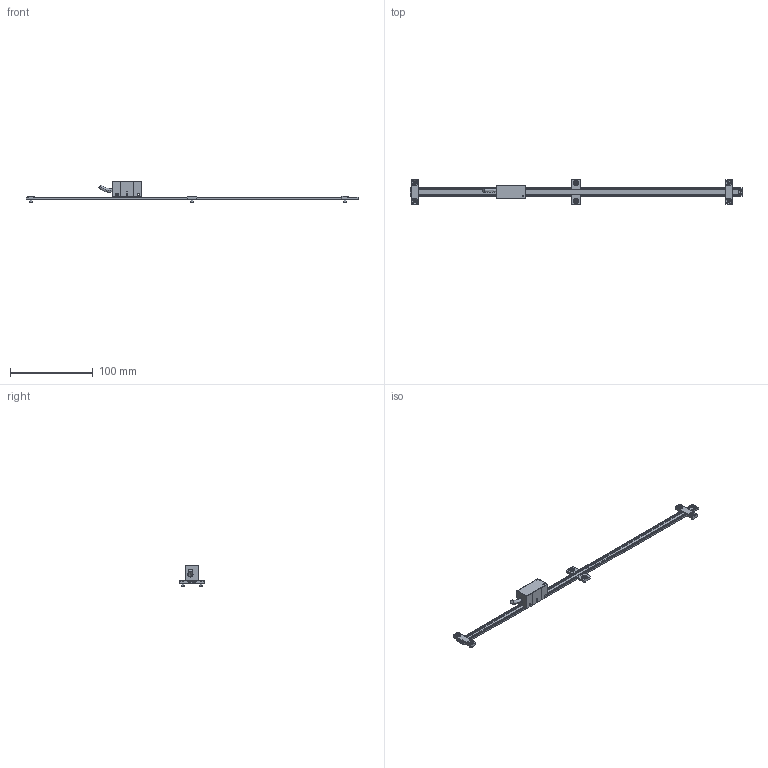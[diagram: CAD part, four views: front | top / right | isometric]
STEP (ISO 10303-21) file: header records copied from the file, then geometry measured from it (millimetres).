
FILE_DESCRIPTION (( 'STEP AP203' ), '1' );
FILE_NAME ('LGR-8´øµ¼¹ìABS.STEP', '2024-06-11T07:17:21', ( '' ), ( '' ), 'SwSTEP 2.0', 'SolidWorks 2024', '' );
FILE_SCHEMA (( 'CONFIG_CONTROL_DESIGN' ));
Length unit declared in the file: millimetre
Products named in the file (7): 8mm 钢栅尺导轨; cross recessed countersunk head screws gb2_GB_CROSS_SCREWS_TYPE10 M3X6-4.35-H1-N; 20230426-001-01 端压板8; LM001-041-01 压板; LGR-8带导轨ABS; 8栅尺; 绝对值外形
Assembly tree (15 placements, depth 2):
  LGR-8带导轨ABS
    8mm 钢栅尺导轨  x2
    LM001-041-01 压板  x2
    cross recessed countersunk head screws gb2_GB_CROSS_SCREWS_TYPE10 M3X6-4.35-H1-N  x6
    8栅尺  x2
    20230426-001-01 端压板8  x2
    绝对值外形
Bounding box: 402 x 30 x 24.85 mm (x, y, z)
Volume: 21098.1 mm3; surface area: 32645.3 mm2
Topology: 19 solids, 19 shells, 472 faces, 1224 edges, 801 vertices
Faces by surface type: plane 270, cylinder 172, cone 28, bspline 2
Entity records: 8482 total; most frequent: CARTESIAN_POINT 1578, DIRECTION 1283, ORIENTED_EDGE 1202, EDGE_CURVE 601, AXIS2_PLACEMENT_3D 438, VECTOR 407, LINE 407, VERTEX_POINT 397
